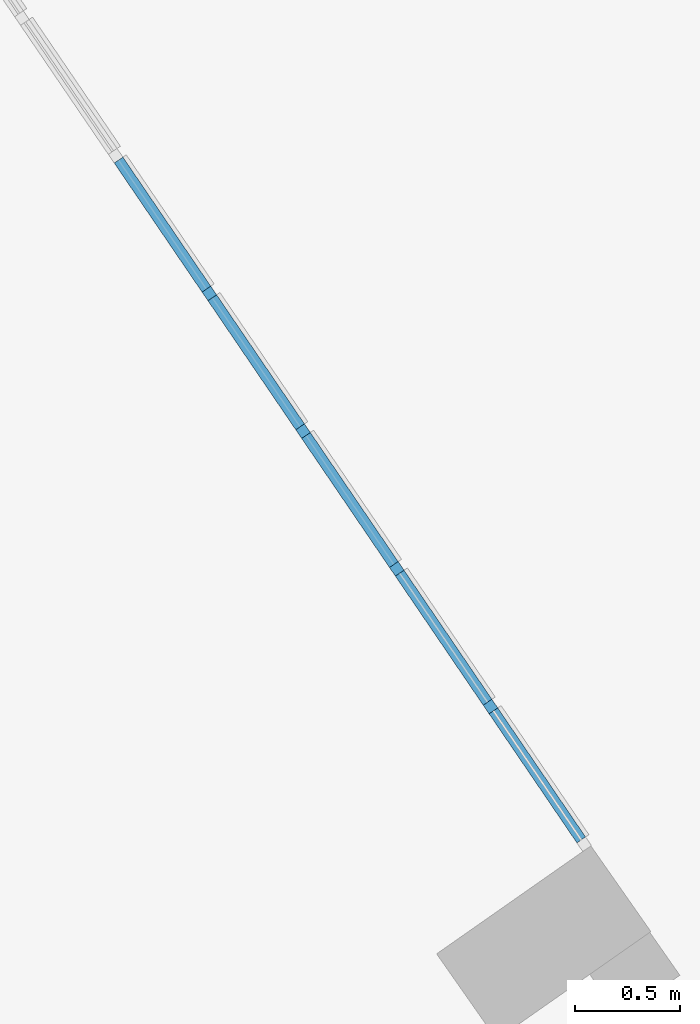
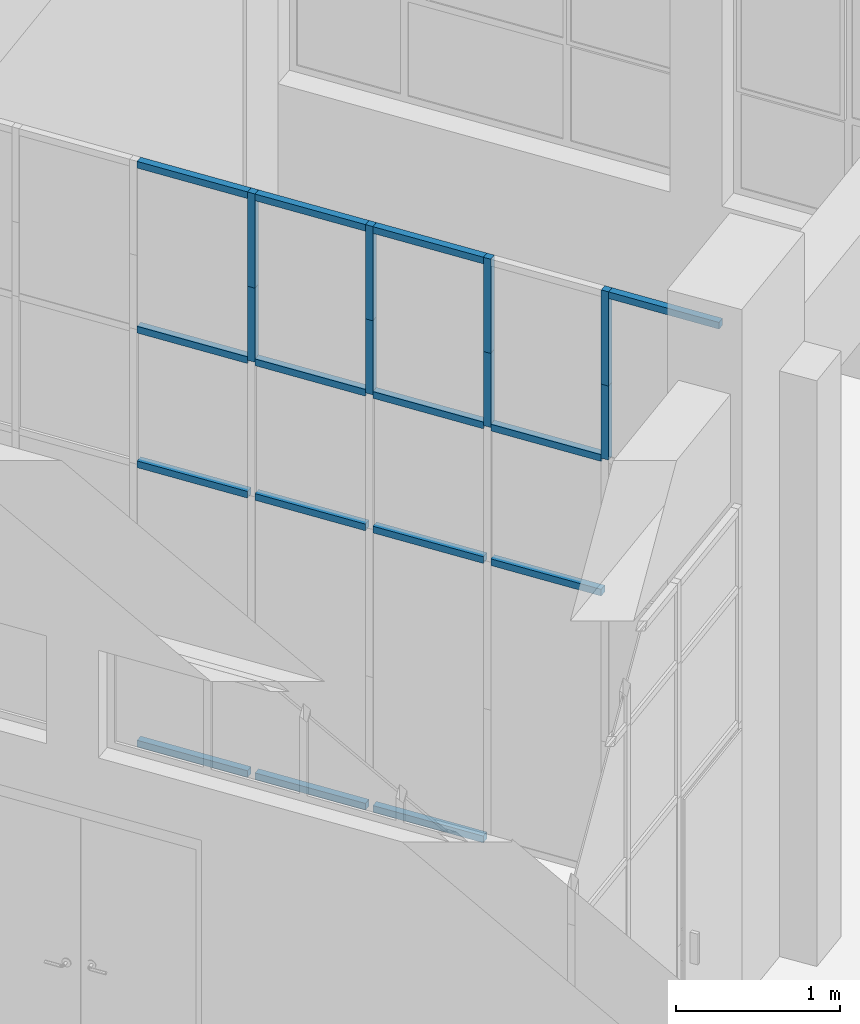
# One storey, part 30 of 157: 23 members, 1 element without a shape of its own.
"""IFC2X3 building model written with IfcOpenShell, lengths in millimetres."""

from ifc_helpers import new_model, entity, si_unit, converted_unit, derived_unit, direction, frame, origin, origin_2d_with_axis, place, context, subcontext, project, spatial, rectangle, extrude, source, transform, mapped, material, type_object, type_shapes, element, aggregate, save


model = new_model("IFC2X3")

# Units and contexts
model_context = context("Model", 3, precision=0.01, world=origin(), true_north=direction((6.123031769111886e-17, 1.0)))
body_context = subcontext(model_context, "Body", "Model", "MODEL_VIEW")
ifc_project = project(units=[si_unit("LENGTHUNIT", "METRE", prefix="MILLI"), si_unit("AREAUNIT", "SQUARE_METRE"), si_unit("VOLUMEUNIT", "CUBIC_METRE"), converted_unit("PLANEANGLEUNIT", "DEGREE", entity("IfcRatioMeasure", 0.017453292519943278), si_unit("PLANEANGLEUNIT", "RADIAN"), dimensions=[0, 0, 0, 0, 0, 0, 0]), si_unit("MASSUNIT", "GRAM", prefix="KILO"), derived_unit("MASSDENSITYUNIT", [(si_unit("MASSUNIT", "GRAM", prefix="KILO"), 1), (si_unit("LENGTHUNIT", "METRE"), -3)]), derived_unit("MOMENTOFINERTIAUNIT", [(si_unit("LENGTHUNIT", "METRE"), 4)]), si_unit("TIMEUNIT", "SECOND"), si_unit("FREQUENCYUNIT", "HERTZ"), si_unit("THERMODYNAMICTEMPERATUREUNIT", "DEGREE_CELSIUS"), derived_unit("THERMALTRANSMITTANCEUNIT", [(si_unit("MASSUNIT", "GRAM", prefix="KILO"), 1), (si_unit("THERMODYNAMICTEMPERATUREUNIT", "KELVIN"), -1), (si_unit("TIMEUNIT", "SECOND"), -3)]), derived_unit("THERMALCONDUCTANCEUNIT", [(si_unit("MASSUNIT", "GRAM", prefix="KILO"), 1), (si_unit("LENGTHUNIT", "METRE"), 1), (si_unit("THERMODYNAMICTEMPERATUREUNIT", "KELVIN"), -1), (si_unit("TIMEUNIT", "SECOND"), -3)]), derived_unit("VOLUMETRICFLOWRATEUNIT", [(si_unit("LENGTHUNIT", "METRE"), 3), (si_unit("TIMEUNIT", "SECOND"), -1)]), derived_unit("MASSFLOWRATEUNIT", [(si_unit("MASSUNIT", "GRAM", prefix="KILO"), 1), (si_unit("TIMEUNIT", "SECOND"), -1)]), derived_unit("ROTATIONALFREQUENCYUNIT", [(si_unit("TIMEUNIT", "SECOND"), -1)]), si_unit("ELECTRICCURRENTUNIT", "AMPERE"), si_unit("ELECTRICVOLTAGEUNIT", "VOLT"), si_unit("POWERUNIT", "WATT"), converted_unit("FORCEUNIT", "KIP", entity("IfcRatioMeasure", 2.088543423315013e-05), si_unit("FORCEUNIT", "NEWTON"), dimensions=[1, 1, -2, 0, 0, 0, 0]), si_unit("ILLUMINANCEUNIT", "LUX"), si_unit("LUMINOUSFLUXUNIT", "LUMEN"), si_unit("LUMINOUSINTENSITYUNIT", "CANDELA"), derived_unit("USERDEFINED", [(si_unit("MASSUNIT", "GRAM", prefix="KILO"), -1), (si_unit("LENGTHUNIT", "METRE"), -2), (si_unit("TIMEUNIT", "SECOND"), 3), (si_unit("LUMINOUSFLUXUNIT", "LUMEN"), 1)]), derived_unit("USERDEFINED", [(si_unit("MASSUNIT", "GRAM", prefix="KILO"), 1), (si_unit("LENGTHUNIT", "METRE"), 3), (si_unit("TIMEUNIT", "SECOND"), -3), (si_unit("ELECTRICCURRENTUNIT", "AMPERE"), -2)]), derived_unit("USERDEFINED", [(si_unit("LENGTHUNIT", "METRE"), 2), (si_unit("TIMEUNIT", "SECOND"), -2)]), derived_unit("SOUNDPOWERUNIT", [(si_unit("MASSUNIT", "GRAM", prefix="KILO"), 1), (si_unit("LENGTHUNIT", "METRE"), 2), (si_unit("TIMEUNIT", "SECOND"), -3)]), derived_unit("SOUNDPRESSUREUNIT", [(si_unit("MASSUNIT", "GRAM", prefix="KILO"), 1), (si_unit("LENGTHUNIT", "METRE"), -1), (si_unit("TIMEUNIT", "SECOND"), -2)]), derived_unit("LINEARVELOCITYUNIT", [(si_unit("LENGTHUNIT", "METRE"), 1), (si_unit("TIMEUNIT", "SECOND"), -1)]), si_unit("PRESSUREUNIT", "PASCAL"), derived_unit("USERDEFINED", [(si_unit("LENGTHUNIT", "METRE"), -2), (si_unit("MASSUNIT", "GRAM", prefix="KILO"), 1), (si_unit("TIMEUNIT", "SECOND"), -2)]), derived_unit("LINEARFORCEUNIT", [(si_unit("MASSUNIT", "GRAM", prefix="KILO"), 1), (si_unit("LENGTHUNIT", "METRE"), 1), (si_unit("TIMEUNIT", "SECOND"), -2), (si_unit("LENGTHUNIT", "METRE"), -1)]), derived_unit("PLANARFORCEUNIT", [(si_unit("MASSUNIT", "GRAM", prefix="KILO"), 1), (si_unit("LENGTHUNIT", "METRE"), 1), (si_unit("TIMEUNIT", "SECOND"), -2), (si_unit("LENGTHUNIT", "METRE"), -2)]), derived_unit("SPECIFICHEATCAPACITYUNIT", [(si_unit("LENGTHUNIT", "METRE"), 2), (si_unit("TIMEUNIT", "SECOND"), -2), (si_unit("THERMODYNAMICTEMPERATUREUNIT", "KELVIN"), -1)]), derived_unit("VAPORPERMEABILITYUNIT", [(si_unit("TIMEUNIT", "SECOND"), 1), (si_unit("LENGTHUNIT", "METRE"), -1)]), derived_unit("DYNAMICVISCOSITYUNIT", [(si_unit("MASSUNIT", "GRAM", prefix="KILO"), 1), (si_unit("LENGTHUNIT", "METRE"), -1), (si_unit("TIMEUNIT", "SECOND"), -1)]), derived_unit("THERMALEXPANSIONCOEFFICIENTUNIT", [(si_unit("THERMODYNAMICTEMPERATUREUNIT", "KELVIN"), -1)])], contexts=[model_context])

# Site, building, storey
site_placement = place(None, frame((0.0, 0.0, 0.0), z_axis=(0.0, 0.0, 1.0), x_axis=(0.8191520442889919, 0.5735764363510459, 0.0)))
site = spatial("IfcSite", under=ifc_project, at=site_placement, Name="Default", CompositionType="ELEMENT")
building_placement = place(site_placement, origin())
building = spatial("IfcBuilding", under=site, at=building_placement, CompositionType="ELEMENT")
storey_placement = place(building_placement, origin())
storey = spatial("IfcBuildingStorey", under=building, at=storey_placement, Name="1.EG +0.00", CompositionType="ELEMENT", Elevation=-4.331468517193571e-12)

# Curtain wall, members
curtain_wall_type = type_object("IfcCurtainWallType", Name="Curtain Wall:Curtain_Wall_CJC_Int5", PredefinedType="NOTDEFINED")
curtain_wall_placement = place(storey_placement, origin())
curtain_wall = element("IfcCurtainWall", 1, at=curtain_wall_placement, inside=storey, type_object=curtain_wall_type, Name="Curtain Wall:Curtain_Wall_CJC_Int5", ObjectType="Curtain Wall:Curtain_Wall_CJC_Int5")
ifc_material = material(Name="Aluminium")
member_type_1 = type_object("IfcMemberType", Name="Rectangular Mullion:5x5", PredefinedType="MULLION", material=ifc_material)
shared_shape_1 = source(origin(), body_context, "Body", "SweptSolid", [
    extrude(rectangle(XDim=50.000000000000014, YDim=50.0, at=origin_2d_with_axis()), frame((-25.0, 0.0, -746.4297457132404), z_axis=(0.0, 0.0, 1.0), x_axis=(0.0, -1.0, 0.0)), (0.0, 0.0, 1.0), 746.4297457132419),
])
type_shapes(member_type_1, [shared_shape_1])
member_1_placement = place(curtain_wall_placement, frame((-211076.49722442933, 70085.91799314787, 0.0), z_axis=(-0.013317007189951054, -0.9999113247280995, 0.0), x_axis=(0.0, 0.0, -1.0)))
member_1 = element("IfcMember", 2, at=member_1_placement, type_object=member_type_1, material=ifc_material, Name="Rectangular Mullion:5x5", ObjectType="Rectangular Mullion:5x5", context=body_context, shape_type="MappedRepresentation", body=[
    mapped(shared_shape_1, transform((0.0, 0.0, 0.0), scale=1.0)),
])
member_2_placement = place(curtain_wall_placement, frame((-211065.89116378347, 70882.27711493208, 0.0), z_axis=(-0.013317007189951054, -0.9999113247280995, 0.0), x_axis=(0.0, 0.0, -1.0)))
member_2 = element("IfcMember", 3, at=member_2_placement, type_object=member_type_1, material=ifc_material, Name="Rectangular Mullion:5x5", ObjectType="Rectangular Mullion:5x5", context=body_context, shape_type="MappedRepresentation", body=[
    mapped(shared_shape_1, transform((0.0, 0.0, 0.0), scale=1.0)),
])
member_3_placement = place(curtain_wall_placement, frame((-211087.10328507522, 69289.55887136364, 0.0), z_axis=(-0.013317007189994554, -0.9999113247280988, 0.0), x_axis=(0.0, 0.0, -1.0)))
member_3 = element("IfcMember", 4, at=member_3_placement, type_object=member_type_1, material=ifc_material, Name="Rectangular Mullion:5x5", ObjectType="Rectangular Mullion:5x5", context=body_context, shape_type="MappedRepresentation", body=[
    mapped(shared_shape_1, transform((0.0, 0.0, 0.0), scale=1.0)),
])
member_type_2 = type_object("IfcMemberType", Name="Rectangular Mullion:5x5", PredefinedType="MULLION", material=ifc_material)
shared_shape_2 = source(origin(), body_context, "Body", "SweptSolid", [
    extrude(rectangle(XDim=50.000000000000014, YDim=50.0, at=origin_2d_with_axis()), frame((-25.0, 0.0, -746.4297454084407), z_axis=(0.0, 0.0, 1.0), x_axis=(0.0, -1.0, 0.0)), (0.0, 0.0, 1.0), 746.4297454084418),
])
type_shapes(member_type_2, [shared_shape_2])
member_4_placement = place(curtain_wall_placement, frame((-211077.16307478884, 70035.92242691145, 4350.0), z_axis=(0.013317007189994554, 0.9999113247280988, 0.0), x_axis=(0.0, 0.0, 1.0)))
member_4 = element("IfcMember", 5, at=member_4_placement, type_object=member_type_2, material=ifc_material, Name="Rectangular Mullion:5x5", ObjectType="Rectangular Mullion:5x5", context=body_context, shape_type="MappedRepresentation", body=[
    mapped(shared_shape_2, transform((0.0, 0.0, 0.0), scale=1.0)),
])
member_5_placement = place(curtain_wall_placement, frame((-211066.55701414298, 70832.28154869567, 4350.0), z_axis=(0.013317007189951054, 0.9999113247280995, 0.0), x_axis=(0.0, 0.0, 1.0)))
member_5 = element("IfcMember", 6, at=member_5_placement, type_object=member_type_2, material=ifc_material, Name="Rectangular Mullion:5x5", ObjectType="Rectangular Mullion:5x5", context=body_context, shape_type="MappedRepresentation", body=[
    mapped(shared_shape_2, transform((0.0, 0.0, 0.0), scale=1.0)),
])
member_6_placement = place(curtain_wall_placement, frame((-211055.9509534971, 71628.64067047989, 4350.0), z_axis=(0.013317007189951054, 0.9999113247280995, 0.0), x_axis=(0.0, 0.0, 1.0)))
member_6 = element("IfcMember", 7, at=member_6_placement, type_object=member_type_2, material=ifc_material, Name="Rectangular Mullion:5x5", ObjectType="Rectangular Mullion:5x5", context=body_context, shape_type="MappedRepresentation", body=[
    mapped(shared_shape_2, transform((0.0, 0.0, 0.0), scale=1.0)),
])
member_7_placement = place(curtain_wall_placement, frame((-211098.37519608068, 68443.20418334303, 4350.0), z_axis=(0.01331700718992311, 0.9999113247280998, 0.0), x_axis=(0.0, 0.0, 1.0)))
member_7 = element("IfcMember", 8, at=member_7_placement, type_object=member_type_2, material=ifc_material, Name="Rectangular Mullion:5x5", ObjectType="Rectangular Mullion:5x5", context=body_context, shape_type="MappedRepresentation", body=[
    mapped(shared_shape_2, transform((0.0, 0.0, 0.0), scale=1.0)),
])
member_type_3 = type_object("IfcMemberType", Name="Rectangular Mullion:5x5", PredefinedType="MULLION", material=ifc_material)
shared_shape_3 = source(origin(), body_context, "Body", "SweptSolid", [
    extrude(rectangle(XDim=50.0, YDim=50.0, at=origin_2d_with_axis()), frame((0.0, 0.0, -746.4297457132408), z_axis=(0.0, 0.0, 1.0), x_axis=(0.0, -1.0, 0.0)), (0.0, 0.0, 1.0), 746.4297457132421),
])
type_shapes(member_type_3, [shared_shape_3])
member_8_placement = place(curtain_wall_placement, frame((-211066.55701414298, 70832.28154869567, 2100.0), z_axis=(0.013317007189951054, 0.9999113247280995, 0.0), x_axis=(0.0, 0.0, 1.0)))
member_8 = element("IfcMember", 9, at=member_8_placement, type_object=member_type_3, material=ifc_material, Name="Rectangular Mullion:5x5", ObjectType="Rectangular Mullion:5x5", context=body_context, shape_type="MappedRepresentation", body=[
    mapped(shared_shape_3, transform((0.0, 0.0, 0.0), scale=1.0)),
])
member_9_placement = place(curtain_wall_placement, frame((-211055.9509534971, 71628.64067047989, 2100.0), z_axis=(0.013317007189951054, 0.9999113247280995, 0.0), x_axis=(0.0, 0.0, 1.0)))
member_9 = element("IfcMember", 10, at=member_9_placement, type_object=member_type_3, material=ifc_material, Name="Rectangular Mullion:5x5", ObjectType="Rectangular Mullion:5x5", context=body_context, shape_type="MappedRepresentation", body=[
    mapped(shared_shape_3, transform((0.0, 0.0, 0.0), scale=1.0)),
])
member_10_placement = place(curtain_wall_placement, frame((-211066.55701414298, 70832.28154869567, 3100.0), z_axis=(0.013317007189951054, 0.9999113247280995, 0.0), x_axis=(0.0, 0.0, 1.0)))
member_10 = element("IfcMember", 11, at=member_10_placement, type_object=member_type_3, material=ifc_material, Name="Rectangular Mullion:5x5", ObjectType="Rectangular Mullion:5x5", context=body_context, shape_type="MappedRepresentation", body=[
    mapped(shared_shape_3, transform((0.0, 0.0, 0.0), scale=1.0)),
])
member_11_placement = place(curtain_wall_placement, frame((-211055.9509534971, 71628.64067047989, 3100.0), z_axis=(0.013317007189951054, 0.9999113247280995, 0.0), x_axis=(0.0, 0.0, 1.0)))
member_11 = element("IfcMember", 12, at=member_11_placement, type_object=member_type_3, material=ifc_material, Name="Rectangular Mullion:5x5", ObjectType="Rectangular Mullion:5x5", context=body_context, shape_type="MappedRepresentation", body=[
    mapped(shared_shape_3, transform((0.0, 0.0, 0.0), scale=1.0)),
])
member_12_placement = place(curtain_wall_placement, frame((-211087.76913543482, 69239.56330512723, 2100.0), z_axis=(0.013317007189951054, 0.9999113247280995, 0.0), x_axis=(0.0, 0.0, 1.0)))
member_12 = element("IfcMember", 13, at=member_12_placement, type_object=member_type_3, material=ifc_material, Name="Rectangular Mullion:5x5", ObjectType="Rectangular Mullion:5x5", context=body_context, shape_type="MappedRepresentation", body=[
    mapped(shared_shape_3, transform((0.0, 0.0, 0.0), scale=1.0)),
])
member_13_placement = place(curtain_wall_placement, frame((-211077.16307478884, 70035.92242691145, 2100.0), z_axis=(0.013317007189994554, 0.9999113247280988, 0.0), x_axis=(0.0, 0.0, 1.0)))
member_13 = element("IfcMember", 14, at=member_13_placement, type_object=member_type_3, material=ifc_material, Name="Rectangular Mullion:5x5", ObjectType="Rectangular Mullion:5x5", context=body_context, shape_type="MappedRepresentation", body=[
    mapped(shared_shape_3, transform((0.0, 0.0, 0.0), scale=1.0)),
])
member_14_placement = place(curtain_wall_placement, frame((-211087.76913543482, 69239.56330512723, 3100.0), z_axis=(0.013317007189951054, 0.9999113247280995, 0.0), x_axis=(0.0, 0.0, 1.0)))
member_14 = element("IfcMember", 15, at=member_14_placement, type_object=member_type_3, material=ifc_material, Name="Rectangular Mullion:5x5", ObjectType="Rectangular Mullion:5x5", context=body_context, shape_type="MappedRepresentation", body=[
    mapped(shared_shape_3, transform((0.0, 0.0, 0.0), scale=1.0)),
])
member_15_placement = place(curtain_wall_placement, frame((-211077.16307478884, 70035.92242691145, 3100.0), z_axis=(0.013317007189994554, 0.9999113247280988, 0.0), x_axis=(0.0, 0.0, 1.0)))
member_15 = element("IfcMember", 16, at=member_15_placement, type_object=member_type_3, material=ifc_material, Name="Rectangular Mullion:5x5", ObjectType="Rectangular Mullion:5x5", context=body_context, shape_type="MappedRepresentation", body=[
    mapped(shared_shape_3, transform((0.0, 0.0, 0.0), scale=1.0)),
])
member_type_4 = type_object("IfcMemberType", Name="Rectangular Mullion:5x5", PredefinedType="MULLION", material=ifc_material)
shared_shape_4 = source(origin(), body_context, "Body", "SweptSolid", [
    extrude(rectangle(XDim=50.0, YDim=50.0, at=origin_2d_with_axis()), frame((0.0, 0.0, -550.0), z_axis=(0.0, 0.0, 1.0), x_axis=(0.0, -1.0, 0.0)), (0.0, 0.0, 1.0), 550.0),
])
type_shapes(member_type_4, [shared_shape_4])
member_16_placement = place(curtain_wall_placement, frame((-211076.8301496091, 70060.92021002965, 3100.0), z_axis=(0.0, 0.0, -1.0), x_axis=(0.013317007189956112, 0.9999113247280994, 0.0)))
member_16 = element("IfcMember", 17, at=member_16_placement, type_object=member_type_4, material=ifc_material, Name="Rectangular Mullion:5x5", ObjectType="Rectangular Mullion:5x5", context=body_context, shape_type="MappedRepresentation", body=[
    mapped(shared_shape_4, transform((0.0, 0.0, 0.0), scale=1.0)),
])
member_17_placement = place(curtain_wall_placement, frame((-211066.22408896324, 70857.27933181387, 3100.0), z_axis=(0.0, 0.0, -1.0), x_axis=(0.013317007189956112, 0.9999113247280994, 0.0)))
member_17 = element("IfcMember", 18, at=member_17_placement, type_object=member_type_4, material=ifc_material, Name="Rectangular Mullion:5x5", ObjectType="Rectangular Mullion:5x5", context=body_context, shape_type="MappedRepresentation", body=[
    mapped(shared_shape_4, transform((0.0, 0.0, 0.0), scale=1.0)),
])
member_18_placement = place(curtain_wall_placement, frame((-211087.43621025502, 69264.56108824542, 3100.0), z_axis=(0.0, 0.0, -1.0), x_axis=(0.013317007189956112, 0.9999113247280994, 0.0)))
member_18 = element("IfcMember", 19, at=member_18_placement, type_object=member_type_4, material=ifc_material, Name="Rectangular Mullion:5x5", ObjectType="Rectangular Mullion:5x5", context=body_context, shape_type="MappedRepresentation", body=[
    mapped(shared_shape_4, transform((0.0, 0.0, 0.0), scale=1.0)),
])
member_19_placement = place(curtain_wall_placement, frame((-211098.04227090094, 68468.20196646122, 3100.0), z_axis=(0.0, 0.0, -1.0), x_axis=(0.013317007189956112, 0.9999113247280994, 0.0)))
member_19 = element("IfcMember", 20, at=member_19_placement, type_object=member_type_4, material=ifc_material, Name="Rectangular Mullion:5x5", ObjectType="Rectangular Mullion:5x5", context=body_context, shape_type="MappedRepresentation", body=[
    mapped(shared_shape_4, transform((0.0, 0.0, 0.0), scale=1.0)),
])
member_type_5 = type_object("IfcMemberType", Name="Rectangular Mullion:5x5", PredefinedType="MULLION", material=ifc_material)
shared_shape_5 = source(origin(), body_context, "Body", "SweptSolid", [
    extrude(rectangle(XDim=50.0, YDim=50.0, at=origin_2d_with_axis()), frame((0.0, 0.0, -700.0), z_axis=(0.0, 0.0, 1.0), x_axis=(0.0, -1.0, 0.0)), (0.0, 0.0, 1.0), 700.0000000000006),
])
type_shapes(member_type_5, [shared_shape_5])
member_20_placement = place(curtain_wall_placement, frame((-211076.8301496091, 70060.92021002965, 3650.0), z_axis=(0.0, 0.0, -1.0), x_axis=(0.013317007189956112, 0.9999113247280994, 0.0)))
member_20 = element("IfcMember", 21, at=member_20_placement, type_object=member_type_5, material=ifc_material, Name="Rectangular Mullion:5x5", ObjectType="Rectangular Mullion:5x5", context=body_context, shape_type="MappedRepresentation", body=[
    mapped(shared_shape_5, transform((0.0, 0.0, 0.0), scale=1.0)),
])
member_21_placement = place(curtain_wall_placement, frame((-211066.22408896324, 70857.27933181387, 3650.0), z_axis=(0.0, 0.0, -1.0), x_axis=(0.013317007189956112, 0.9999113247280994, 0.0)))
member_21 = element("IfcMember", 22, at=member_21_placement, type_object=member_type_5, material=ifc_material, Name="Rectangular Mullion:5x5", ObjectType="Rectangular Mullion:5x5", context=body_context, shape_type="MappedRepresentation", body=[
    mapped(shared_shape_5, transform((0.0, 0.0, 0.0), scale=1.0)),
])
member_22_placement = place(curtain_wall_placement, frame((-211087.43621025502, 69264.56108824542, 3650.0), z_axis=(0.0, 0.0, -1.0), x_axis=(0.013317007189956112, 0.9999113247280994, 0.0)))
member_22 = element("IfcMember", 23, at=member_22_placement, type_object=member_type_5, material=ifc_material, Name="Rectangular Mullion:5x5", ObjectType="Rectangular Mullion:5x5", context=body_context, shape_type="MappedRepresentation", body=[
    mapped(shared_shape_5, transform((0.0, 0.0, 0.0), scale=1.0)),
])
member_23_placement = place(curtain_wall_placement, frame((-211098.04227090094, 68468.20196646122, 3650.0), z_axis=(0.0, 0.0, -1.0), x_axis=(0.013317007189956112, 0.9999113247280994, 0.0)))
member_23 = element("IfcMember", 24, at=member_23_placement, type_object=member_type_5, material=ifc_material, Name="Rectangular Mullion:5x5", ObjectType="Rectangular Mullion:5x5", context=body_context, shape_type="MappedRepresentation", body=[
    mapped(shared_shape_5, transform((0.0, 0.0, 0.0), scale=1.0)),
])
aggregate(curtain_wall, [member_4, member_5, member_6, member_1, member_2, member_8, member_9, member_10, member_11, member_16, member_17, member_20, member_21, member_3, member_7, member_12, member_13, member_14, member_15, member_18, member_19, member_22, member_23])

save(model, "model.ifc")
